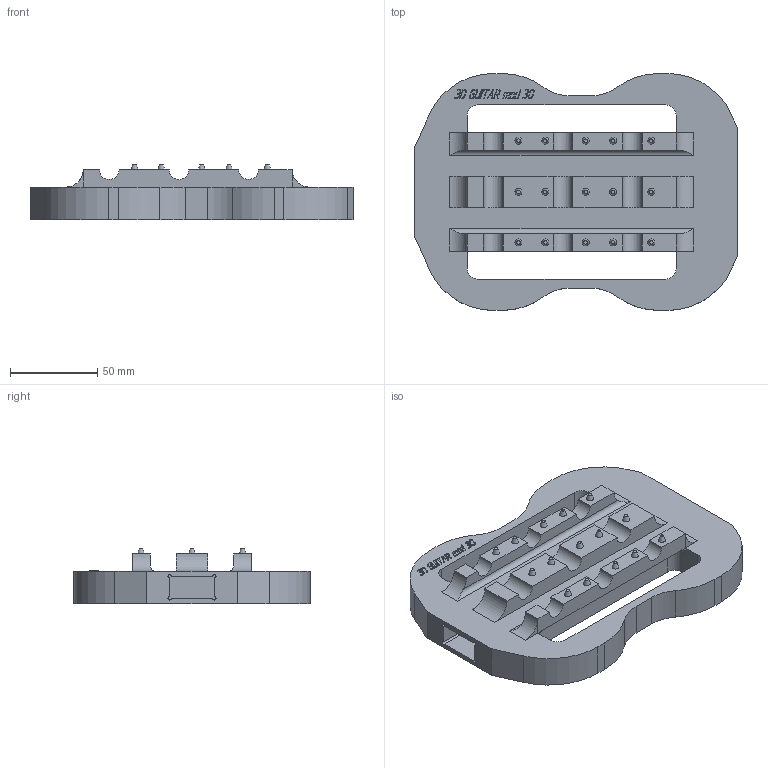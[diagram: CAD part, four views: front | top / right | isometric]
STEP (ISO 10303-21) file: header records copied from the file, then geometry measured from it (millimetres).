
FILE_DESCRIPTION(('STEP AP203'), '1');
FILE_NAME('ðåçîíàòîð', '', ('UNSPECIFIED'), ('UNSPECIFIED'), 'ASCON STEP Converter 1.3', 'ASCON Math Kernel', '');
FILE_SCHEMA(('CONFIG_CONTROL_DESIGN'));
Length unit declared in the file: millimetre
Bounding box: 185 x 136.04 x 31.6 mm (x, y, z)
Volume: 287883.7 mm3; surface area: 79315.3 mm2
Topology: 1 solids, 1 shells, 820 faces, 2322 edges, 1540 vertices
Faces by surface type: cylinder 513, plane 288, cone 15, torus 4
Entity records: 33730 total; most frequent: DIRECTION 5004, CARTESIAN_POINT 4836, ORIENTED_EDGE 4614, EDGE_CURVE 2307, AXIS2_PLACEMENT_3D 1880, VERTEX_POINT 1540, LINE 1244, VECTOR 1244
